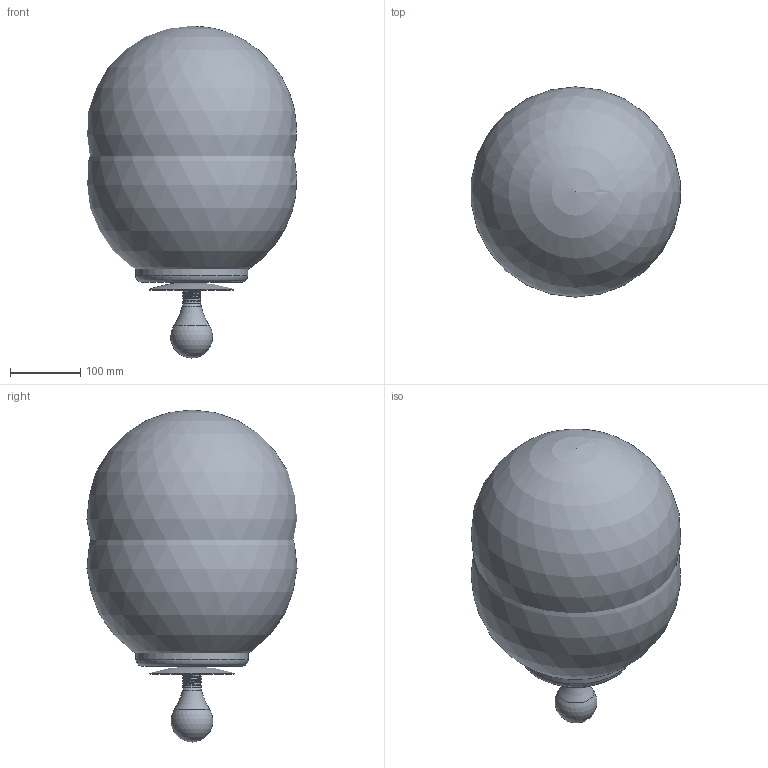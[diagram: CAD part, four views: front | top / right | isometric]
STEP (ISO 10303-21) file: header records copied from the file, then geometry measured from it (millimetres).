
FILE_DESCRIPTION( ( 'Unknown' ), '1' );
FILE_NAME( '//MMS001/Pubblica/PROGETTI MM LAMPADARI/7434 SERIE TUMBLER/ELECTA - LO SCALZO/OLD/PRJ 192_2019 lo scalzo/Tavolo Grande/Base assemblata Grande.stp', 'Unknown', ( 'Unknown' ), ( 'Unknown' ), 'XStep 1.0', 'Unknown', ' ' );
FILE_SCHEMA( ( 'automotive_design' ) );
Length unit declared in the file: millimetre
Products named in the file (13): Assem1; Assem2; Lampadina E27; Marmo Grande; Piatino; Sfera ﾘ300; Tige; Molla; Bloccacavo 400240401; RONDELLA dentata; Dado 13 M10x1_2
Bounding box: 298.72 x 299.79 x 473.53 mm (x, y, z)
Volume: 4358171.1 mm3; surface area: 1412060.8 mm2
Topology: 25 solids, 28 shells, 493 faces, 1222 edges, 795 vertices
Faces by surface type: plane 254, cylinder 137, bspline 27, torus 26, cone 20, sphere 14, revolution 12, extrusion 3
Full cylindrical faces by diameter (mm): 0.2 x18, 0.5 x6, 0.75 x6, 1 x20, 3 x6, 7 x2, 8.917 x2, 10 x2, 10.25 x6, 10.5 x4, 14 x2, 15.285 x3, 22 x3, 24 x3, 26 x3, 60 x2, 110 x2, 130 x2, 160 x2
Entity records: 8736 total; most frequent: CARTESIAN_POINT 3315, DIRECTION 1018, ORIENTED_EDGE 860, EDGE_CURVE 430, AXIS2_PLACEMENT_3D 417, VERTEX_POINT 317, EDGE_LOOP 301, FACE_OUTER_BOUND 259
